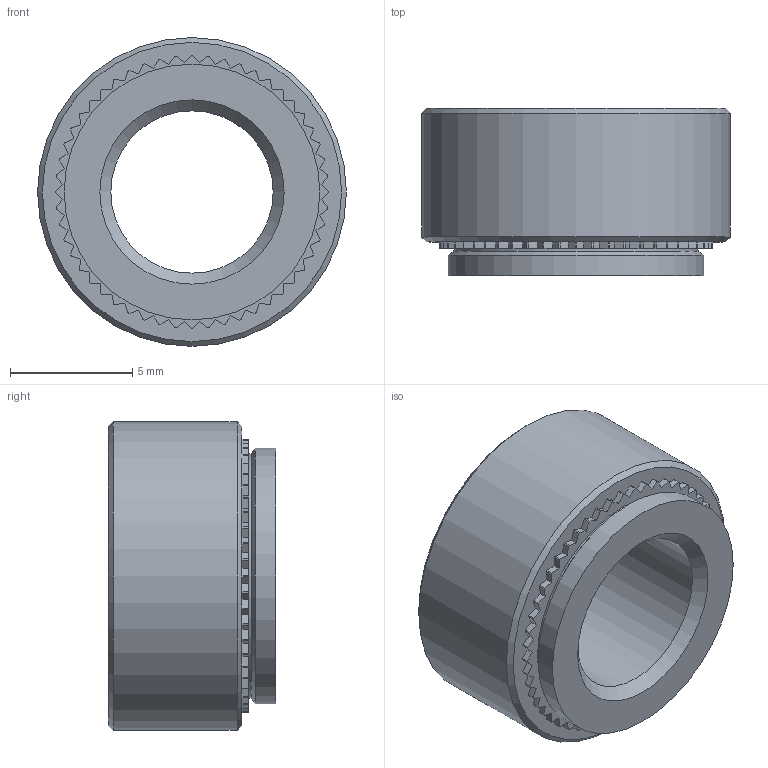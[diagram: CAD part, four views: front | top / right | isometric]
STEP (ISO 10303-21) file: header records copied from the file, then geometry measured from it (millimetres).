
FILE_DESCRIPTION(/* description */ (''),/* implementation_level */ '2;1');
FILE_NAME(/* name */ 'C:\Users\keval.kumar\Desktop\Fastit\Clinch nut\M8\Clinch Nut_M8_1.stp',/* time_stamp */ '2024-03-14T09:42:44+05:00',/* author */ ('keval.kumar'),/* organization */ (''),/* preprocessor_version */ 'ST-DEVELOPER v18.1',/* originating_system */ 'Autodesk Inventor 2022',/* authorisation */ '');
FILE_SCHEMA (('AUTOMOTIVE_DESIGN { 1 0 10303 214 3 1 1 }'));
Length unit declared in the file: millimetre
Products named in the file (1): Clinch Nut_M8_1
Bounding box: 12.65 x 6.85 x 12.65 mm (x, y, z)
Volume: 563.4 mm3; surface area: 582.7 mm2
Topology: 1 solids, 1 shells, 169 faces, 492 edges, 327 vertices
Faces by surface type: plane 108, cylinder 56, cone 5
Full cylindrical faces by diameter (mm): 6.647 x1, 10 x1, 10.47 x1, 12.65 x1
Entity records: 5628 total; most frequent: CARTESIAN_POINT 989, ORIENTED_EDGE 984, DIRECTION 951, EDGE_CURVE 492, LINE 373, VECTOR 373, VERTEX_POINT 327, AXIS2_PLACEMENT_3D 289
